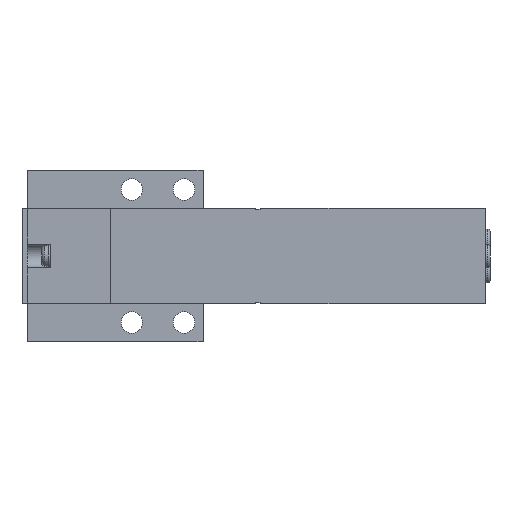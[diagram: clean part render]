
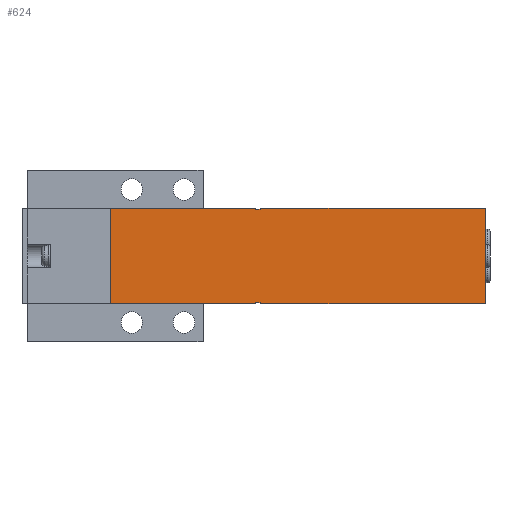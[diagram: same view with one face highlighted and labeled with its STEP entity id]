
A CAD part, front view. The second image highlights one B-rep face of the part: STEP entity #624.
In plain terms, the highlighted planar face has unit normal (0, -1, 0).
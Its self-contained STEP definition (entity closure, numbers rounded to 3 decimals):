
#624=ADVANCED_FACE('',(#1757),#1758,.F.);
#1757=FACE_OUTER_BOUND('',#3565,.T.);
#1758=PLANE('',#3566);
#3565=EDGE_LOOP('',(#7212,#7213,#7214,#7215,#7216,#7217,#7218,#7219,#7220,#7221,#7222,#7223,#7224,#7225,#7226,#7227,#7228,#7229,#7230,#7231,#7232,#7233,#7234,#7235));
#3566=AXIS2_PLACEMENT_3D('',#7236,#7237,#7238);
#7212=ORIENTED_EDGE('',*,*,#12073,.F.);
#7213=ORIENTED_EDGE('',*,*,#12066,.T.);
#7214=ORIENTED_EDGE('',*,*,#12086,.T.);
#7215=ORIENTED_EDGE('',*,*,#12087,.F.);
#7216=ORIENTED_EDGE('',*,*,#12088,.F.);
#7217=ORIENTED_EDGE('',*,*,#12053,.T.);
#7218=ORIENTED_EDGE('',*,*,#11930,.F.);
#7219=ORIENTED_EDGE('',*,*,#11875,.T.);
#7220=ORIENTED_EDGE('',*,*,#11878,.F.);
#7221=ORIENTED_EDGE('',*,*,#12089,.T.);
#7222=ORIENTED_EDGE('',*,*,#11995,.T.);
#7223=ORIENTED_EDGE('',*,*,#12090,.T.);
#7224=ORIENTED_EDGE('',*,*,#12091,.T.);
#7225=ORIENTED_EDGE('',*,*,#12092,.F.);
#7226=ORIENTED_EDGE('',*,*,#12093,.T.);
#7227=ORIENTED_EDGE('',*,*,#12094,.F.);
#7228=ORIENTED_EDGE('',*,*,#12095,.T.);
#7229=ORIENTED_EDGE('',*,*,#12063,.T.);
#7230=ORIENTED_EDGE('',*,*,#12096,.T.);
#7231=ORIENTED_EDGE('',*,*,#12097,.T.);
#7232=ORIENTED_EDGE('',*,*,#12098,.T.);
#7233=ORIENTED_EDGE('',*,*,#12099,.F.);
#7234=ORIENTED_EDGE('',*,*,#12025,.F.);
#7235=ORIENTED_EDGE('',*,*,#11904,.F.);
#7236=CARTESIAN_POINT('',(18.6,0.0,10.0));
#7237=DIRECTION('',(-0.0,1.0,0.0));
#7238=DIRECTION('',(1.0,0.0,0.0));
#11875=EDGE_CURVE('',#14493,#14491,#14494,.T.);
#11878=EDGE_CURVE('',#14497,#14491,#14499,.T.);
#11904=EDGE_CURVE('',#14545,#14548,#14549,.T.);
#11930=EDGE_CURVE('',#14493,#14595,#14598,.T.);
#11995=EDGE_CURVE('',#14713,#14711,#14714,.T.);
#12025=EDGE_CURVE('',#14548,#14767,#14768,.T.);
#12053=EDGE_CURVE('',#14814,#14595,#14815,.T.);
#12063=EDGE_CURVE('',#14831,#14829,#14832,.T.);
#12066=EDGE_CURVE('',#14827,#14834,#14836,.T.);
#12073=EDGE_CURVE('',#14827,#14545,#14846,.T.);
#12086=EDGE_CURVE('',#14834,#14867,#14868,.T.);
#12087=EDGE_CURVE('',#14869,#14867,#14870,.T.);
#12088=EDGE_CURVE('',#14814,#14869,#14871,.T.);
#12089=EDGE_CURVE('',#14497,#14713,#14872,.T.);
#12090=EDGE_CURVE('',#14711,#14873,#14874,.T.);
#12091=EDGE_CURVE('',#14873,#14875,#14876,.T.);
#12092=EDGE_CURVE('',#14877,#14875,#14878,.T.);
#12093=EDGE_CURVE('',#14877,#14879,#14880,.T.);
#12094=EDGE_CURVE('',#14881,#14879,#14882,.T.);
#12095=EDGE_CURVE('',#14881,#14831,#14883,.T.);
#12096=EDGE_CURVE('',#14829,#14884,#14885,.T.);
#12097=EDGE_CURVE('',#14884,#14886,#14887,.T.);
#12098=EDGE_CURVE('',#14886,#14888,#14889,.T.);
#12099=EDGE_CURVE('',#14767,#14888,#14890,.T.);
#14491=VERTEX_POINT('',#18535);
#14493=VERTEX_POINT('',#18538);
#14494=LINE('',#18539,#18540);
#14497=VERTEX_POINT('',#18544);
#14499=LINE('',#18547,#18548);
#14545=VERTEX_POINT('',#18640);
#14548=VERTEX_POINT('',#18644);
#14549=LINE('',#18645,#18646);
#14595=VERTEX_POINT('',#18738);
#14598=LINE('',#18743,#18744);
#14711=VERTEX_POINT('',#18939);
#14713=VERTEX_POINT('',#18942);
#14714=LINE('',#18943,#18944);
#14767=VERTEX_POINT('',#19020);
#14768=LINE('',#19021,#19022);
#14814=VERTEX_POINT('',#19095);
#14815=LINE('',#19096,#19097);
#14827=VERTEX_POINT('',#19115);
#14829=VERTEX_POINT('',#19118);
#14831=VERTEX_POINT('',#19121);
#14832=LINE('',#19122,#19123);
#14834=VERTEX_POINT('',#19126);
#14836=LINE('',#19129,#19130);
#14846=LINE('',#19145,#19146);
#14867=VERTEX_POINT('',#19175);
#14868=LINE('',#19176,#19177);
#14869=VERTEX_POINT('',#19178);
#14870=LINE('',#19179,#19180);
#14871=LINE('',#19181,#19182);
#14872=LINE('',#19183,#19184);
#14873=VERTEX_POINT('',#19185);
#14874=LINE('',#19186,#19187);
#14875=VERTEX_POINT('',#19188);
#14876=LINE('',#19189,#19190);
#14877=VERTEX_POINT('',#19191);
#14878=LINE('',#19192,#19193);
#14879=VERTEX_POINT('',#19194);
#14880=LINE('',#19195,#19196);
#14881=VERTEX_POINT('',#19197);
#14882=LINE('',#19198,#19199);
#14883=LINE('',#19200,#19201);
#14884=VERTEX_POINT('',#19202);
#14885=LINE('',#19203,#19204);
#14886=VERTEX_POINT('',#19205);
#14887=LINE('',#19206,#19207);
#14888=VERTEX_POINT('',#19208);
#14889=LINE('',#19209,#19210);
#14890=LINE('',#19211,#19212);
#18535=CARTESIAN_POINT('',(35.1,0.0,9.9));
#18538=CARTESIAN_POINT('',(35.1,0.0,10.0));
#18539=CARTESIAN_POINT('',(35.1,0.0,10.1));
#18540=VECTOR('',#22992,1.0);
#18544=CARTESIAN_POINT('',(18.6,0.0,9.9));
#18547=CARTESIAN_POINT('',(18.6,0.0,9.9));
#18548=VECTOR('',#22995,1.0);
#18640=CARTESIAN_POINT('',(55.1,0.0,9.9));
#18644=CARTESIAN_POINT('',(55.1,0.0,10.0));
#18645=CARTESIAN_POINT('',(55.1,0.0,9.9));
#18646=VECTOR('',#23028,1.0);
#18738=CARTESIAN_POINT('',(44.1,0.0,10.0));
#18743=CARTESIAN_POINT('',(18.6,0.0,10.0));
#18744=VECTOR('',#23059,1.0);
#18939=CARTESIAN_POINT('',(35.1,0.0,-9.9));
#18942=CARTESIAN_POINT('',(18.6,0.0,-9.9));
#18943=CARTESIAN_POINT('',(18.6,0.0,-9.9));
#18944=VECTOR('',#23129,1.0);
#19020=CARTESIAN_POINT('',(97.6,0.0,10.0));
#19021=CARTESIAN_POINT('',(18.6,0.0,10.0));
#19022=VECTOR('',#23171,1.0);
#19095=CARTESIAN_POINT('',(44.1,0.0,9.9));
#19096=CARTESIAN_POINT('',(44.1,0.0,9.9));
#19097=VECTOR('',#23199,1.0);
#19115=CARTESIAN_POINT('',(50.1,0.0,9.9));
#19118=CARTESIAN_POINT('',(50.1,0.0,-9.9));
#19121=CARTESIAN_POINT('',(50.1,0.0,-9.8));
#19122=CARTESIAN_POINT('',(50.1,0.0,10.0));
#19123=VECTOR('',#23211,1.0);
#19126=CARTESIAN_POINT('',(50.1,0.0,9.8));
#19129=CARTESIAN_POINT('',(50.1,0.0,10.0));
#19130=VECTOR('',#23214,1.0);
#19145=CARTESIAN_POINT('',(44.1,0.0,9.9));
#19146=VECTOR('',#23223,1.0);
#19175=CARTESIAN_POINT('',(49.1,0.0,9.8));
#19176=CARTESIAN_POINT('',(18.6,0.0,9.8));
#19177=VECTOR('',#23244,1.0);
#19178=CARTESIAN_POINT('',(49.1,0.0,9.9));
#19179=CARTESIAN_POINT('',(49.1,0.0,10.0));
#19180=VECTOR('',#23245,1.0);
#19181=CARTESIAN_POINT('',(44.1,0.0,9.9));
#19182=VECTOR('',#23246,1.0);
#19183=CARTESIAN_POINT('',(18.6,0.0,10.0));
#19184=VECTOR('',#23247,1.0);
#19185=CARTESIAN_POINT('',(35.1,0.0,-10.0));
#19186=CARTESIAN_POINT('',(35.1,0.0,-9.9));
#19187=VECTOR('',#23248,1.0);
#19188=CARTESIAN_POINT('',(44.1,0.0,-10.0));
#19189=CARTESIAN_POINT('',(18.6,0.0,-10.0));
#19190=VECTOR('',#23249,1.0);
#19191=CARTESIAN_POINT('',(44.1,0.0,-9.9));
#19192=CARTESIAN_POINT('',(44.1,0.0,-9.9));
#19193=VECTOR('',#23250,1.0);
#19194=CARTESIAN_POINT('',(49.1,0.0,-9.9));
#19195=CARTESIAN_POINT('',(44.1,0.0,-9.9));
#19196=VECTOR('',#23251,1.0);
#19197=CARTESIAN_POINT('',(49.1,0.0,-9.8));
#19198=CARTESIAN_POINT('',(49.1,0.0,10.0));
#19199=VECTOR('',#23252,1.0);
#19200=CARTESIAN_POINT('',(18.6,0.0,-9.8));
#19201=VECTOR('',#23253,1.0);
#19202=CARTESIAN_POINT('',(55.1,0.0,-9.9));
#19203=CARTESIAN_POINT('',(44.1,0.0,-9.9));
#19204=VECTOR('',#23254,1.0);
#19205=CARTESIAN_POINT('',(55.1,0.0,-10.0));
#19206=CARTESIAN_POINT('',(55.1,0.0,-9.9));
#19207=VECTOR('',#23255,1.0);
#19208=CARTESIAN_POINT('',(97.6,0.0,-10.0));
#19209=CARTESIAN_POINT('',(18.6,0.0,-10.0));
#19210=VECTOR('',#23256,1.0);
#19211=CARTESIAN_POINT('',(97.6,0.0,10.0));
#19212=VECTOR('',#23257,1.0);
#22992=DIRECTION('',(0.0,0.0,-1.0));
#22995=DIRECTION('',(1.0,0.0,0.0));
#23028=DIRECTION('',(0.0,0.0,1.0));
#23059=DIRECTION('',(1.0,0.0,0.0));
#23129=DIRECTION('',(1.0,0.0,0.0));
#23171=DIRECTION('',(1.0,0.0,0.0));
#23199=DIRECTION('',(0.0,0.0,1.0));
#23211=DIRECTION('',(0.0,0.0,-1.0));
#23214=DIRECTION('',(0.0,0.0,-1.0));
#23223=DIRECTION('',(1.0,0.0,0.0));
#23244=DIRECTION('',(-1.0,0.0,0.0));
#23245=DIRECTION('',(0.0,0.0,-1.0));
#23246=DIRECTION('',(1.0,0.0,0.0));
#23247=DIRECTION('',(0.0,0.0,-1.0));
#23248=DIRECTION('',(0.0,0.0,-1.0));
#23249=DIRECTION('',(1.0,0.0,0.0));
#23250=DIRECTION('',(0.0,0.0,-1.0));
#23251=DIRECTION('',(1.0,0.0,0.0));
#23252=DIRECTION('',(0.0,0.0,-1.0));
#23253=DIRECTION('',(1.0,0.0,0.0));
#23254=DIRECTION('',(1.0,0.0,0.0));
#23255=DIRECTION('',(0.0,0.0,-1.0));
#23256=DIRECTION('',(1.0,0.0,0.0));
#23257=DIRECTION('',(0.0,0.0,-1.0));
